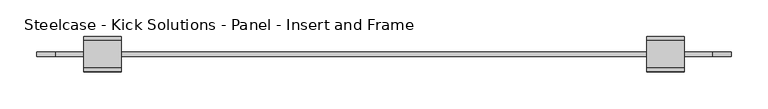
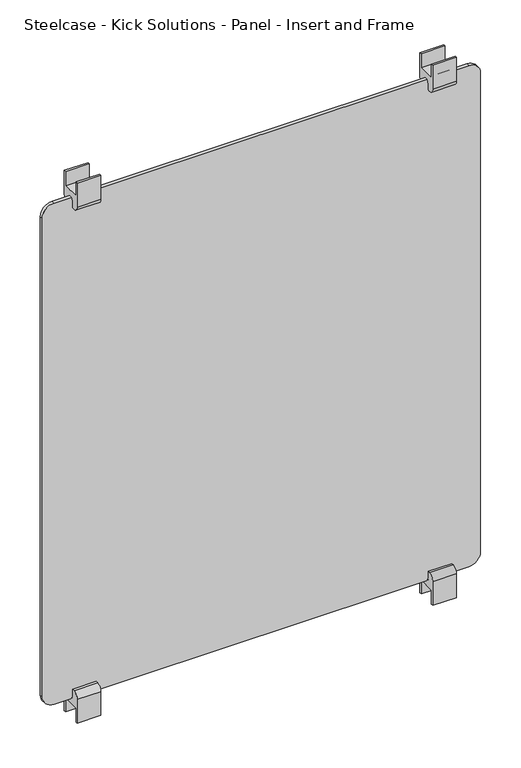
"""IFC4 building model written with IfcOpenShell, lengths in millimetres: furniture geometry, Steelcase - Kick Solutions - Panel - Insert and Frame : Laminate - 54H x 42W."""

from ifc_helpers import new_model, si_unit, point, frame, frame_2d, origin, place, context, project, spatial, polyline, circle_curve, trimmed, segment, composite_curve, outline, extrude, source, transform, mapped, element, save


def steelcase_kick_solutions_panel_insert_and_frame_a193c384(model_context):
    return source(origin(), model_context, "Body", "SweptSolid", [
        extrude(outline(composite_curve([segment(polyline([(5.3821989, 1346.2), (10.144699, 1346.2), (10.144699, 1291.513221)]), True, "CONTINUOUS"), segment(trimmed(circle_curve(frame_2d((-1.6831687, 1291.513221)), 11.8278677), [point((10.144699, 1291.513221))], [point((-1.6831687, 1279.6853533))], False, "CARTESIAN"), True, "CONTINUOUS"), segment(polyline([(-1.6831687, 1279.6853533), (-7.3178012, 1279.6853533), (-7.3178012, 1295.0857521)]), True, "CONTINUOUS"), segment(trimmed(circle_curve(frame_2d((-13.667801, 1295.0857521)), 6.3499998), [point((-7.3178012, 1295.0857521))], [point((-20.0178007, 1295.0857521))], True, "CARTESIAN"), True, "CONTINUOUS"), segment(polyline([(-20.0178007, 1295.0857521), (-20.0178007, 1279.6853527), (-25.2074988, 1279.6853527)]), True, "CONTINUOUS"), segment(trimmed(circle_curve(frame_2d((-25.2074988, 1291.9581549)), 12.2728022), [point((-25.2074988, 1279.6853527))], [point((-37.480301, 1291.9581549))], False, "CARTESIAN"), True, "CONTINUOUS"), segment(polyline([(-37.480301, 1291.9581549), (-37.480301, 1346.2), (-32.7177988, 1346.2), (-32.7177988, 1314.4499758), (5.3821989, 1314.4499758), (5.3821989, 1346.2)]), True, "CONTINUOUS")], self_intersect=False)), frame((889.9148583, 0.0, 0.0), z_axis=(1.0, 0.0, 0.0), x_axis=(0.0, 1.0, 0.0)), (0.0, 0.0, 1.0), 50.8),
        extrude(outline(composite_curve([segment(polyline([(5.3821989, 120.6499576), (5.3821989, 152.3999815), (-32.7177988, 152.3999815), (-32.7177988, 120.6499576), (-37.480301, 120.6499576), (-37.480301, 174.8918024)]), True, "CONTINUOUS"), segment(trimmed(circle_curve(frame_2d((-25.2074988, 174.8918024)), 12.2728022), [point((-37.480301, 174.8918024))], [point((-25.2074988, 187.1646046))], False, "CARTESIAN"), True, "CONTINUOUS"), segment(polyline([(-25.2074988, 187.1646046), (-20.0178007, 187.1646046), (-20.0178007, 171.7642058)]), True, "CONTINUOUS"), segment(trimmed(circle_curve(frame_2d((-13.667801, 171.7642058)), 6.3499998), [point((-20.0178007, 171.7642058))], [point((-7.3178012, 171.7642058))], True, "CARTESIAN"), True, "CONTINUOUS"), segment(polyline([(-7.3178012, 171.7642058), (-7.3178012, 187.1646046), (-1.6831687, 187.1646046)]), True, "CONTINUOUS"), segment(trimmed(circle_curve(frame_2d((-1.6831687, 175.3367369)), 11.8278677), [point((-1.6831687, 187.1646046))], [point((10.144699, 175.3367369))], False, "CARTESIAN"), True, "CONTINUOUS"), segment(polyline([(10.144699, 175.3367369), (10.144699, 120.6499576), (5.3821989, 120.6499576)]), True, "CONTINUOUS")], self_intersect=False)), frame((889.9148583, 0.0, 0.0), z_axis=(1.0, 0.0, 0.0), x_axis=(0.0, 1.0, 0.0)), (0.0, 0.0, 1.0), 50.8),
        extrude(outline(composite_curve([segment(polyline([(5.3821989, 1346.2), (10.144699, 1346.2), (10.144699, 1291.5132204)]), True, "CONTINUOUS"), segment(trimmed(circle_curve(frame_2d((-1.6831684, 1291.5132204)), 11.8278674), [point((10.144699, 1291.5132204))], [point((-1.6831684, 1279.685353))], False, "CARTESIAN"), True, "CONTINUOUS"), segment(polyline([(-1.6831684, 1279.685353), (-7.3178009, 1279.685353), (-7.3178009, 1295.0857521)]), True, "CONTINUOUS"), segment(trimmed(circle_curve(frame_2d((-13.667801, 1295.0857521)), 6.3500001), [point((-7.3178009, 1295.0857521))], [point((-20.017801, 1295.0857521))], True, "CARTESIAN"), True, "CONTINUOUS"), segment(polyline([(-20.017801, 1295.0857521), (-20.017801, 1279.685353), (-25.2074991, 1279.685353)]), True, "CONTINUOUS"), segment(trimmed(circle_curve(frame_2d((-25.2074991, 1291.9581549)), 12.2728019), [point((-25.2074991, 1279.685353))], [point((-37.480301, 1291.9581549))], False, "CARTESIAN"), True, "CONTINUOUS"), segment(polyline([(-37.480301, 1291.9581549), (-37.480301, 1346.2), (-32.7177988, 1346.2), (-32.7177988, 1314.4499758), (5.3821989, 1314.4499758), (5.3821989, 1346.2)]), True, "CONTINUOUS")], self_intersect=False)), frame((126.0851417, 0.0, 0.0), z_axis=(1.0, 0.0, 0.0), x_axis=(0.0, 1.0, 0.0)), (0.0, 0.0, 1.0), 50.8),
        extrude(outline(composite_curve([segment(polyline([(5.3821989, 120.6499576), (5.3821989, 152.3999818), (-32.7177988, 152.3999818), (-32.7177988, 120.6499576), (-37.480301, 120.6499576), (-37.480301, 174.8918027)]), True, "CONTINUOUS"), segment(trimmed(circle_curve(frame_2d((-25.2074991, 174.8918027)), 12.2728019), [point((-37.480301, 174.8918027))], [point((-25.2074991, 187.1646046))], False, "CARTESIAN"), True, "CONTINUOUS"), segment(polyline([(-25.2074991, 187.1646046), (-20.017801, 187.1646046), (-20.017801, 171.7642055)]), True, "CONTINUOUS"), segment(trimmed(circle_curve(frame_2d((-13.667801, 171.7642055)), 6.3500001), [point((-20.017801, 171.7642055))], [point((-7.3178009, 171.7642055))], True, "CARTESIAN"), True, "CONTINUOUS"), segment(polyline([(-7.3178009, 171.7642055), (-7.3178009, 187.1646041), (-1.6831684, 187.1646041)]), True, "CONTINUOUS"), segment(trimmed(circle_curve(frame_2d((-1.6831684, 175.3367366)), 11.8278674), [point((-1.6831684, 187.1646041))], [point((10.144699, 175.3367366))], False, "CARTESIAN"), True, "CONTINUOUS"), segment(polyline([(10.144699, 175.3367366), (10.144699, 120.6499576), (5.3821989, 120.6499576)]), True, "CONTINUOUS")], self_intersect=False)), frame((126.0851417, 0.0, 0.0), z_axis=(1.0, 0.0, 0.0), x_axis=(0.0, 1.0, 0.0)), (0.0, 0.0, 1.0), 50.8),
        extrude(outline(composite_curve([segment(polyline([(1301.7499516, 978.8148583), (1301.7499516, 87.9851417)]), True, "CONTINUOUS"), segment(trimmed(circle_curve(frame_2d((1276.3499516, 87.9851417)), 25.4), [point((1301.7499516, 87.9851417))], [point((1276.3499516, 62.5851417))], False, "CARTESIAN"), True, "CONTINUOUS"), segment(polyline([(1276.3499516, 62.5851417), (190.5000061, 62.5851417)]), True, "CONTINUOUS"), segment(trimmed(circle_curve(frame_2d((190.5000061, 87.9851417)), 25.4), [point((190.5000061, 62.5851417))], [point((165.1000061, 87.9851417))], False, "CARTESIAN"), True, "CONTINUOUS"), segment(polyline([(165.1000061, 87.9851417), (165.1000061, 978.8148583)]), True, "CONTINUOUS"), segment(trimmed(circle_curve(frame_2d((190.5000061, 978.8148583)), 25.4), [point((165.1000061, 978.8148583))], [point((190.5000061, 1004.2148583))], False, "CARTESIAN"), True, "CONTINUOUS"), segment(polyline([(190.5000061, 1004.2148583), (1276.3499516, 1004.2148583)]), True, "CONTINUOUS"), segment(trimmed(circle_curve(frame_2d((1276.3499516, 978.8148583)), 25.4), [point((1276.3499516, 1004.2148583))], [point((1301.7499516, 978.8148583))], False, "CARTESIAN"), True, "CONTINUOUS")], self_intersect=False)), frame((0.0, -16.8428004, 0.0), z_axis=(0.0, 1.0, 0.0), x_axis=(0.0, 0.0, 1.0)), (0.0, 0.0, 1.0), 6.3499985),
    ])


if __name__ == "__main__":
    model = new_model("IFC4")
    model_context = context("Model", 3, world=origin())
    ifc_project = project(units=[si_unit("LENGTHUNIT", "METRE", prefix="MILLI")], contexts=[model_context])
    site = spatial("IfcSite", under=ifc_project)
    building = spatial("IfcBuilding", under=site)
    placement = place(None, origin())
    steelcase_kick_solutions_panel_insert_and_frame_shape = steelcase_kick_solutions_panel_insert_and_frame_a193c384(model_context)
    element("IfcFurniture", 1, ObjectType="Steelcase - Kick Solutions - Panel - Insert and Frame : Laminate - 54H x 42W", at=placement, inside=building, context=model_context, shape_type="MappedRepresentation", body=[
        mapped(steelcase_kick_solutions_panel_insert_and_frame_shape, transform((0.0, 0.0, 0.0), x_axis=(1.0, 0.0, 0.0), y_axis=(0.0, 1.0, 0.0), z_axis=(0.0, 0.0, 1.0))),
    ])
    save(model, "model.ifc")
